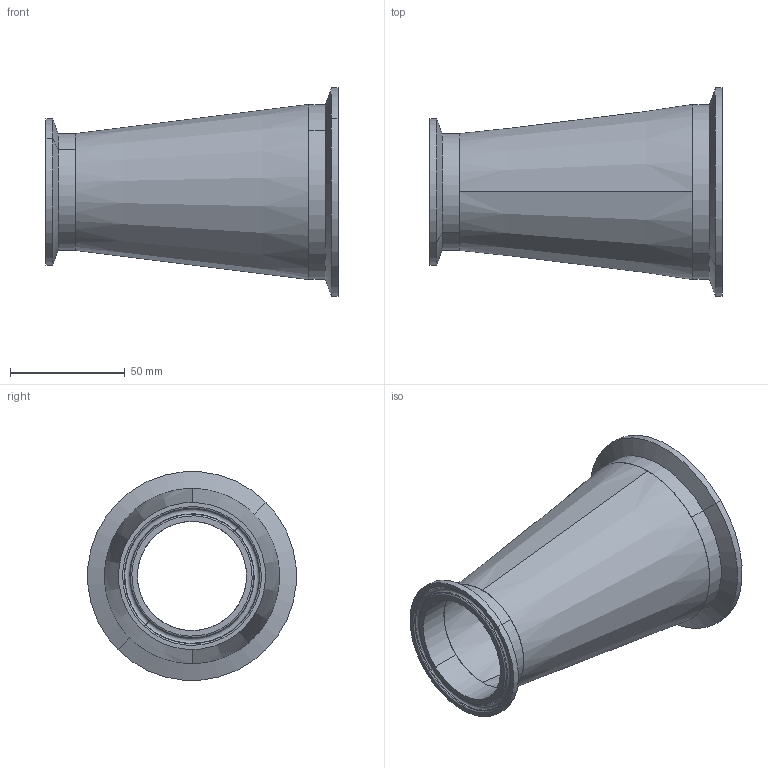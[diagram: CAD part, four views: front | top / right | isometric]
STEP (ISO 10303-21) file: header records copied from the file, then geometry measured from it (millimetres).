
FILE_DESCRIPTION (( 'STEP AP203' ), '1' );
FILE_NAME ('EG31CC3.0X2.0.STEP', '2021-10-01T14:11:06', ( '' ), ( '' ), 'SwSTEP 2.0', 'SolidWorks 2021', '' );
FILE_SCHEMA (( 'CONFIG_CONTROL_DESIGN' ));
Length unit declared in the file: inch
Products named in the file (4): EG2CS2.0; EG31CC3.0X2.0; EG2CS3.0; E31WW3.0X2.0
Assembly tree (3 placements, depth 2):
  EG31CC3.0X2.0
    E31WW3.0X2.0
    EG2CS3.0
    EG2CS2.0
Bounding box: 127 x 90.58 x 90.58 mm (x, y, z)
Volume: 52215.1 mm3; surface area: 57754.3 mm2
Topology: 3 solids, 3 shells, 44 faces, 88 edges, 52 vertices
Faces by surface type: cone 12, cylinder 12, torus 12, plane 8
Entity records: 1590 total; most frequent: DIRECTION 252, CARTESIAN_POINT 190, ORIENTED_EDGE 176, AXIS2_PLACEMENT_3D 114, EDGE_CURVE 88, CIRCLE 64, VERTEX_POINT 52, EDGE_LOOP 52
